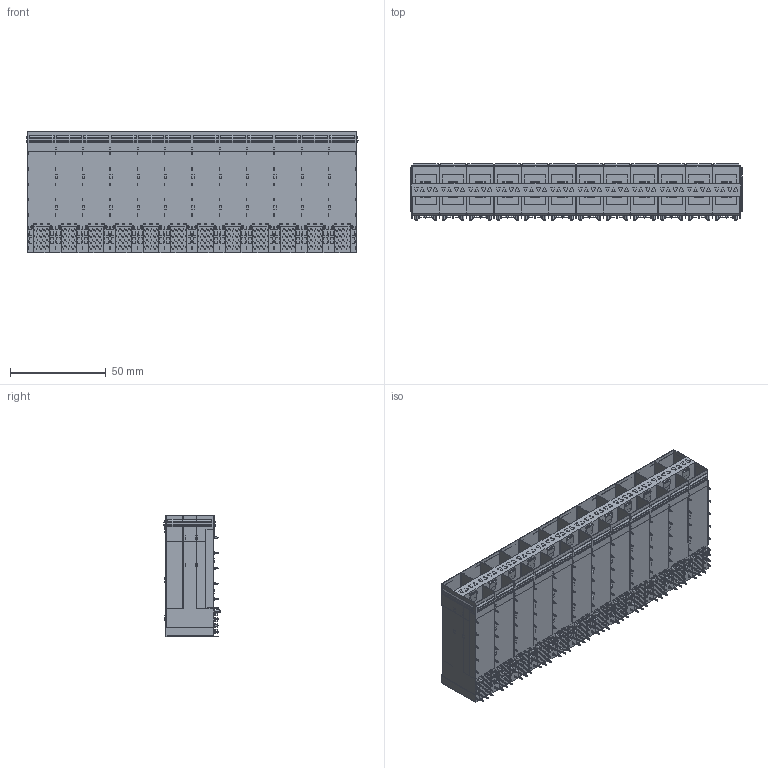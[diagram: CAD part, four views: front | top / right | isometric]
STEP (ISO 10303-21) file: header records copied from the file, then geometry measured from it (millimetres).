
FILE_DESCRIPTION (( 'STEP AP203' ), '1' );
FILE_NAME ('SFP28 2X12囀俋絳嫖翐3D.STEP', '2024-10-31T07:33:21', ( '' ), ( '' ), 'SwSTEP 2.0', 'SolidWorks 2018', '' );
FILE_SCHEMA (( 'CONFIG_CONTROL_DESIGN' ));
Products named in the file (1): SFP28 2X12囀俋絳嫖翐3D
Bounding box: 173.06 x 29.38 x 63.5 mm (x, y, z)
Volume: 139002.2 mm3; surface area: 96049 mm2
Topology: 1 solids, 1 shells, 8672 faces, 24003 edges, 16202 vertices
Faces by surface type: plane 6018, cylinder 2604, cone 48, sphere 2
Entity records: 276970 total; most frequent: CARTESIAN_POINT 48876, ORIENTED_EDGE 48002, DIRECTION 46607, EDGE_CURVE 24001, VECTOR 18741, LINE 18741, VERTEX_POINT 16202, AXIS2_PLACEMENT_3D 13933
